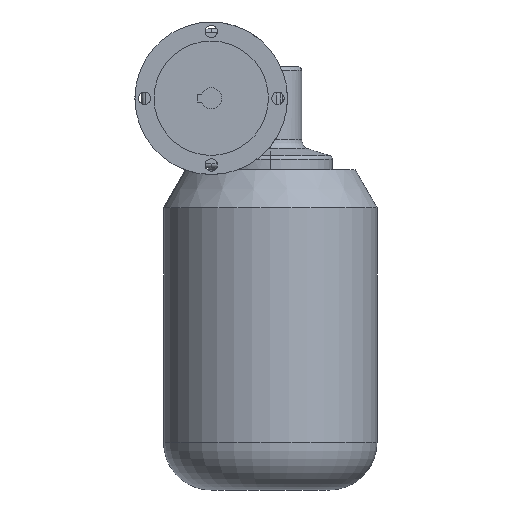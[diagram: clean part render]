
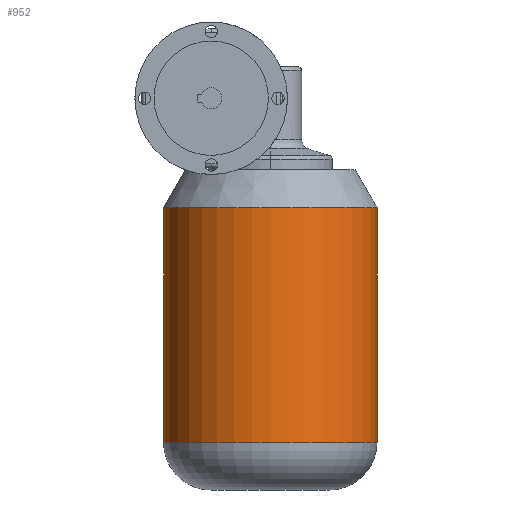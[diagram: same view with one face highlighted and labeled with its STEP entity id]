
A CAD part, left-side view. The second image highlights one B-rep face of the part: STEP entity #952.
In plain terms, the highlighted cylindrical face has radius 56 mm (diameter 112 mm), a partial arc.
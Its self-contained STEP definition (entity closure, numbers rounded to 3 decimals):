
#858 = VERTEX_POINT ( 'NONE', #3257 ) ;
#896 = VERTEX_POINT ( 'NONE', #3437 ) ;
#903 = EDGE_CURVE ( 'NONE', #921, #858, #3519, .T. ) ;
#921 = VERTEX_POINT ( 'NONE', #3582 ) ;
#931 = VERTEX_POINT ( 'NONE', #3564 ) ;
#951 = EDGE_CURVE ( 'NONE', #896, #931, #3666, .T. ) ;
#952 = ADVANCED_FACE ( 'NONE', ( #3661 ), #3638, .T. ) ;
#953 = EDGE_LOOP ( 'NONE', ( #954, #955, #957, #958 ) ) ;
#954 = ORIENTED_EDGE ( 'NONE', *, *, #903, .F. ) ;
#955 = ORIENTED_EDGE ( 'NONE', *, *, #956, .T. ) ;
#956 = EDGE_CURVE ( 'NONE', #921, #896, #3632, .T. ) ;
#957 = ORIENTED_EDGE ( 'NONE', *, *, #951, .T. ) ;
#958 = ORIENTED_EDGE ( 'NONE', *, *, #959, .T. ) ;
#959 = EDGE_CURVE ( 'NONE', #931, #858, #3700, .T. ) ;
#3257 = CARTESIAN_POINT ( 'NONE',  ( 0., 57.107, -20. ) ) ;
#3437 = CARTESIAN_POINT ( 'NONE',  ( 0., -54.893, -143. ) ) ;
#3516 = DIRECTION ( 'NONE',  ( 0., 0., 1. ) ) ;
#3517 = VECTOR ( 'NONE', #3516, 1000. ) ;
#3518 = CARTESIAN_POINT ( 'NONE',  ( 0., 57.107, -168. ) ) ;
#3519 = LINE ( 'NONE', #3518, #3517 ) ;
#3564 = CARTESIAN_POINT ( 'NONE',  ( 0., -54.893, -20. ) ) ;
#3582 = CARTESIAN_POINT ( 'NONE',  ( 0., 57.107, -143. ) ) ;
#3629 = DIRECTION ( 'NONE',  ( 0., -1., 0. ) ) ;
#3630 = DIRECTION ( 'NONE',  ( 0., 0., 1. ) ) ;
#3631 = AXIS2_PLACEMENT_3D ( 'NONE', #3637, #3630, #3629 ) ;
#3632 = CIRCLE ( 'NONE', #3631, 56. ) ;
#3633 = CARTESIAN_POINT ( 'NONE',  ( 0., 1.107, -20. ) ) ;
#3634 = DIRECTION ( 'NONE',  ( 0., -1., 0. ) ) ;
#3635 = DIRECTION ( 'NONE',  ( 0., 0., 1. ) ) ;
#3636 = AXIS2_PLACEMENT_3D ( 'NONE', #3665, #3635, #3634 ) ;
#3637 = CARTESIAN_POINT ( 'NONE',  ( 0., 1.107, -143. ) ) ;
#3638 = CYLINDRICAL_SURFACE ( 'NONE', #3636, 56. ) ;
#3661 = FACE_OUTER_BOUND ( 'NONE', #953, .T. ) ;
#3662 = DIRECTION ( 'NONE',  ( 0., 0., 1. ) ) ;
#3663 = VECTOR ( 'NONE', #3662, 1000. ) ;
#3664 = CARTESIAN_POINT ( 'NONE',  ( 0., -54.893, -168. ) ) ;
#3665 = CARTESIAN_POINT ( 'NONE',  ( 0., 1.107, -168. ) ) ;
#3666 = LINE ( 'NONE', #3664, #3663 ) ;
#3697 = DIRECTION ( 'NONE',  ( 0., -1., 0. ) ) ;
#3698 = DIRECTION ( 'NONE',  ( 0., 0., -1. ) ) ;
#3699 = AXIS2_PLACEMENT_3D ( 'NONE', #3633, #3698, #3697 ) ;
#3700 = CIRCLE ( 'NONE', #3699, 56. ) ;
